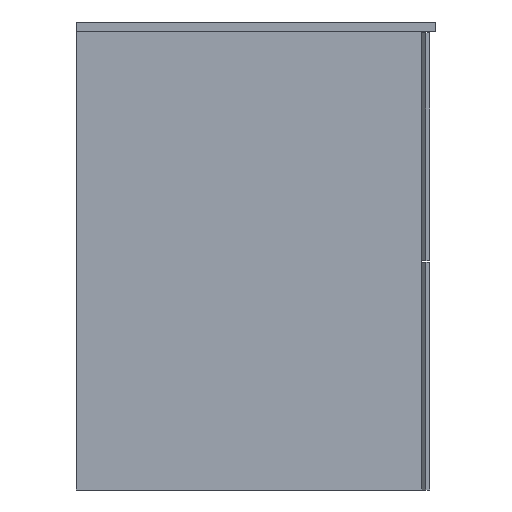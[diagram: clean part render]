
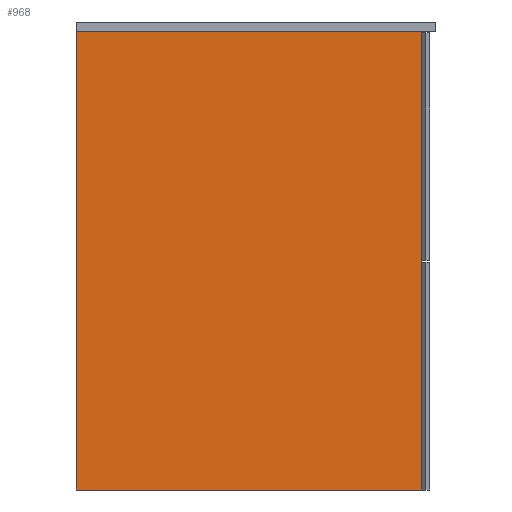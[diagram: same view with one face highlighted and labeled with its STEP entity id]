
A CAD part, left-side view. The second image highlights one B-rep face of the part: STEP entity #968.
In plain terms, the highlighted planar face has unit normal (-1, 0, 0).
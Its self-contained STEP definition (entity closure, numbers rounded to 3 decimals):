
#209 = VECTOR ( 'NONE', #8053, 1000. ) ;
#536 = VERTEX_POINT ( 'NONE', #7519 ) ;
#826 = CARTESIAN_POINT ( 'NONE',  ( -6621.164, -452., -19173.136 ) ) ;
#968 = ADVANCED_FACE ( 'NONE', ( #9331 ), #4254, .T. ) ;
#1050 = VERTEX_POINT ( 'NONE', #826 ) ;
#1081 = CARTESIAN_POINT ( 'NONE',  ( -6621.164, -452., -18573.136 ) ) ;
#1110 = EDGE_CURVE ( 'NONE', #3973, #536, #7636, .T. ) ;
#1547 = VECTOR ( 'NONE', #2483, 1000. ) ;
#1639 = EDGE_LOOP ( 'NONE', ( #2040, #4332, #7020, #4079 ) ) ;
#2040 = ORIENTED_EDGE ( 'NONE', *, *, #8400, .T. ) ;
#2114 = DIRECTION ( 'NONE',  ( -1., 0., 0. ) ) ;
#2464 = VECTOR ( 'NONE', #5395, 1000. ) ;
#2483 = DIRECTION ( 'NONE',  ( 0., 1., 0. ) ) ;
#2498 = LINE ( 'NONE', #3975, #2464 ) ;
#2508 = LINE ( 'NONE', #2658, #7294 ) ;
#2658 = CARTESIAN_POINT ( 'NONE',  ( -6621.164, -452., -19173.136 ) ) ;
#3973 = VERTEX_POINT ( 'NONE', #1081 ) ;
#3975 = CARTESIAN_POINT ( 'NONE',  ( -6621.164, 0., -19173.136 ) ) ;
#4079 = ORIENTED_EDGE ( 'NONE', *, *, #8894, .T. ) ;
#4254 = PLANE ( 'NONE',  #7767 ) ;
#4332 = ORIENTED_EDGE ( 'NONE', *, *, #6832, .T. ) ;
#4467 = VERTEX_POINT ( 'NONE', #4632 ) ;
#4632 = CARTESIAN_POINT ( 'NONE',  ( -6621.164, 0., -19173.136 ) ) ;
#5395 = DIRECTION ( 'NONE',  ( 0., 0., -1. ) ) ;
#5412 = DIRECTION ( 'NONE',  ( 0., -1., 0. ) ) ;
#5765 = DIRECTION ( 'NONE',  ( 0., 0., 1. ) ) ;
#6747 = CARTESIAN_POINT ( 'NONE',  ( -6621.164, -452., -18573.136 ) ) ;
#6832 = EDGE_CURVE ( 'NONE', #1050, #3973, #7439, .T. ) ;
#7020 = ORIENTED_EDGE ( 'NONE', *, *, #1110, .T. ) ;
#7294 = VECTOR ( 'NONE', #5412, 1000. ) ;
#7439 = LINE ( 'NONE', #8224, #209 ) ;
#7519 = CARTESIAN_POINT ( 'NONE',  ( -6621.164, 0., -18573.136 ) ) ;
#7636 = LINE ( 'NONE', #6747, #1547 ) ;
#7767 = AXIS2_PLACEMENT_3D ( 'NONE', #8585, #2114, #5765 ) ;
#8053 = DIRECTION ( 'NONE',  ( 0., 0., 1. ) ) ;
#8224 = CARTESIAN_POINT ( 'NONE',  ( -6621.164, -452., -19173.136 ) ) ;
#8400 = EDGE_CURVE ( 'NONE', #4467, #1050, #2508, .T. ) ;
#8585 = CARTESIAN_POINT ( 'NONE',  ( -6621.164, -452., -19173.136 ) ) ;
#8894 = EDGE_CURVE ( 'NONE', #536, #4467, #2498, .T. ) ;
#9331 = FACE_OUTER_BOUND ( 'NONE', #1639, .T. ) ;
